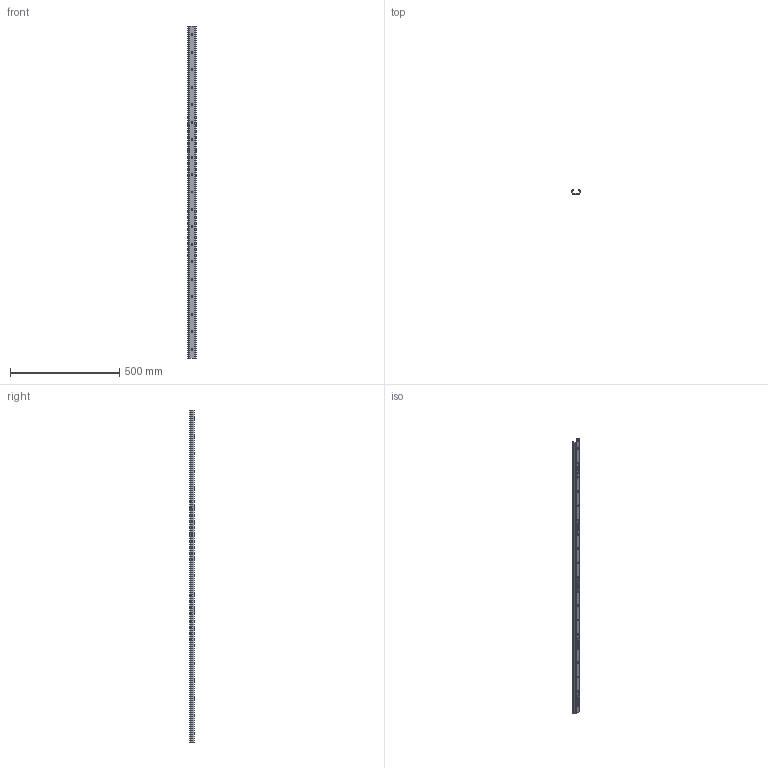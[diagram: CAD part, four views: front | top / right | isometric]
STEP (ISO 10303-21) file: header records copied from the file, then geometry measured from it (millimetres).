
FILE_DESCRIPTION(('STEP AP214'),'1');
FILE_NAME('rail_tex40-1520.stp','2019-03-08T08:33:20',('TraceParts'),('TraceParts S.A.'),'Spatial InterOp 3D',' ',' ');
FILE_SCHEMA(('automotive_design'));
Length unit declared in the file: millimetre
Products named in the file (1): rail_tex40-1520
Bounding box: 39.53 x 21 x 1520 mm (x, y, z)
Volume: 297182 mm3; surface area: 209510.3 mm2
Topology: 1 solids, 1 shells, 349 faces, 906 edges, 604 vertices
Faces by surface type: plane 244, bspline 55, cylinder 50
Entity records: 21883 total; most frequent: CARTESIAN_POINT 10695, ORIENTED_EDGE 1812, DIRECTION 1486, EDGE_CURVE 906, LINE 696, VECTOR 696, VERTEX_POINT 604, EDGE_LOOP 432
